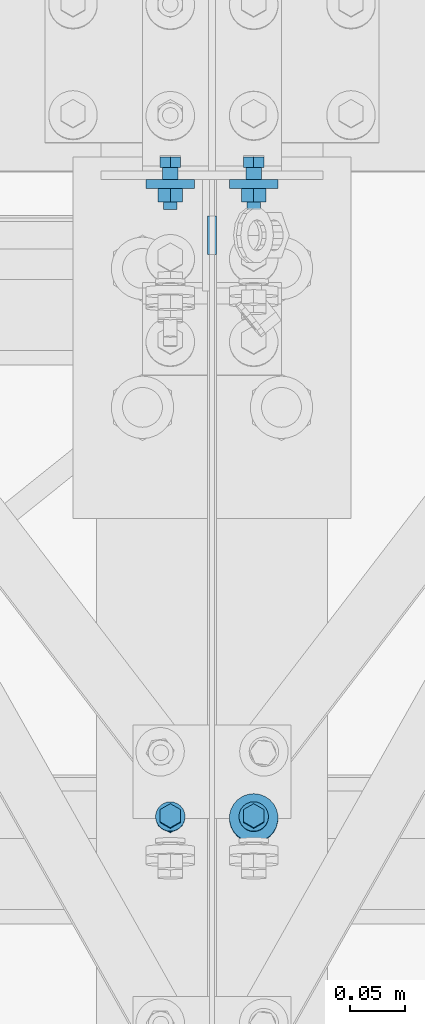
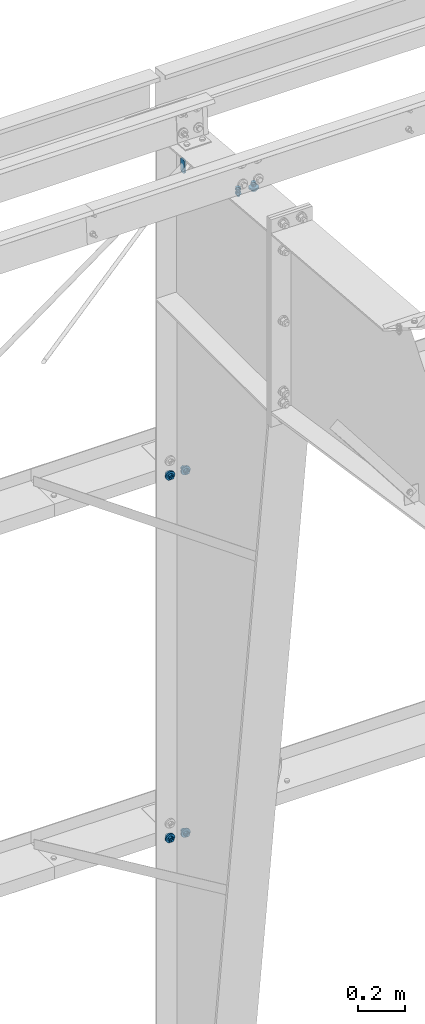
# One storey, part 156 of 185: 7 mechanical fasteners, 4 elements without a shape of their own.
"""IFC2X3 building model written with IfcOpenShell, lengths in millimetres."""

import ifcopenshell
import ifcopenshell.guid

model = None  # the IFC model being written
_history = None  # IfcOwnerHistory: only IFC2X3 demands one
_inside = {}  # id of a spatial element -> (the spatial element, [elements in it])
_under = {}  # id of a project, library or spatial element -> (it, [spatial elements below it])
_declared = {}  # id of a project -> (the project, [libraries it declares])
_typed = {}  # id of a type object -> (the type object, [elements of that type])
_made_of = {}  # id of a material, layer set ... -> (it, [elements and type objects made of it])


def new_model(schema):
    """Start an empty IFC model of exactly this schema.

    Asked for "IFC4X3", IfcOpenShell would pick the latest addendum, in which some entities
    have other attributes; the version numbers below select the first issue.
    IFC2X3 requires an IfcOwnerHistory on every rooted entity: one is made here for all.
    """
    global model, _history
    if schema == "IFC4X3":
        model = ifcopenshell.file(schema_version=(4, 3, 0, 0))
    else:
        model = ifcopenshell.file(schema=schema)
    _inside.clear()
    _under.clear()
    _declared.clear()
    _typed.clear()
    _made_of.clear()
    _history = None
    if model.schema == "IFC2X3":
        org = make("IfcOrganization", Name="unknown")
        user = make(
            "IfcPersonAndOrganization",
            ThePerson=make("IfcPerson", FamilyName="unknown"),
            TheOrganization=org,
        )
        app = make(
            "IfcApplication",
            ApplicationDeveloper=org,
            Version="unknown",
            ApplicationFullName="unknown",
            ApplicationIdentifier="unknown",
        )
        _history = make(
            "IfcOwnerHistory",
            OwningUser=user,
            OwningApplication=app,
            ChangeAction="ADDED",
            CreationDate=0,
        )
    return model


def make(cls, **values):
    """One entity of the class cls with the attributes given. An attribute that is None is left unset."""
    return model.create_entity(
        cls, **{name: value for name, value in values.items() if value is not None}
    )


def rooted(cls, **values):
    """An entity with a GlobalId (a new one), such as an element, a storey or a relation."""
    return make(cls, GlobalId=ifcopenshell.guid.new(), OwnerHistory=_history, **values)


def si_unit(unit_type, name, prefix=None):
    """IfcSIUnit, for example si_unit("LENGTHUNIT", "METRE", prefix="MILLI")."""
    return make("IfcSIUnit", UnitType=unit_type, Prefix=prefix, Name=name)


def assignment(units):
    """IfcUnitAssignment: the units of a project."""
    return None if units is None else make("IfcUnitAssignment", Units=units)


def point(xyz):
    """IfcCartesianPoint."""
    return None if xyz is None else make("IfcCartesianPoint", Coordinates=xyz)


def direction(xyz):
    """IfcDirection."""
    return None if xyz is None else make("IfcDirection", DirectionRatios=xyz)


def frame(location, z_axis=None, x_axis=None):
    """IfcAxis2Placement3D, a coordinate frame: its origin and axes. An axis left out is left unset."""
    return make(
        "IfcAxis2Placement3D",
        Location=point(location),
        Axis=direction(z_axis),
        RefDirection=direction(x_axis),
    )


def frame_2d(location, x_axis=None):
    """IfcAxis2Placement2D, a coordinate frame in the plane: its origin and x axis."""
    return make(
        "IfcAxis2Placement2D", Location=point(location), RefDirection=direction(x_axis)
    )


def origin_with_axes():
    """The frame at (0, 0, 0) with the z axis (0, 0, 1) and the x axis (1, 0, 0) written out."""
    return frame((0.0, 0.0, 0.0), z_axis=(0.0, 0.0, 1.0), x_axis=(1.0, 0.0, 0.0))


def origin_2d_with_axis():
    """The frame at (0, 0) in the plane with the x axis (1, 0) written out."""
    return frame_2d((0.0, 0.0), x_axis=(1.0, 0.0))


def place(relative_to, where):
    """IfcLocalPlacement: puts the frame where relative to a parent placement (None: the world)."""
    return make(
        "IfcLocalPlacement", PlacementRelTo=relative_to, RelativePlacement=where
    )


def context(
    kind, dimensions, precision=None, world=None, true_north=None, identifier=None
):
    """IfcGeometricRepresentationContext, for example the 3D "Model" context."""
    return make(
        "IfcGeometricRepresentationContext",
        ContextIdentifier=identifier,
        ContextType=kind,
        CoordinateSpaceDimension=dimensions,
        Precision=precision,
        WorldCoordinateSystem=world,
        TrueNorth=true_north,
    )


def subcontext(parent, identifier, kind, view, scale=None):
    """IfcGeometricRepresentationSubContext, for example "Body" below "Model"."""
    return make(
        "IfcGeometricRepresentationSubContext",
        ContextIdentifier=identifier,
        ContextType=kind,
        ParentContext=parent,
        TargetScale=scale,
        TargetView=view,
    )


def project(units=None, contexts=None):
    """IfcProject with its units and contexts."""
    return rooted(
        "IfcProject",
        Name="project",
        RepresentationContexts=contexts,
        UnitsInContext=assignment(units),
    )


def spatial(cls, under=None, at=None, **own):
    """A site, building, storey or space (cls), placed at a placement, below another one or the project."""
    s = rooted(cls, ObjectPlacement=at, **own)
    if under is not None:
        _under.setdefault(under.id(), (under, []))[1].append(s)
    return s


def polyline(points):
    """IfcPolyline through the points."""
    return make("IfcPolyline", Points=[point(p) for p in points])


def circle_curve(where, radius):
    """IfcCircle in the frame where."""
    return make("IfcCircle", Position=where, Radius=radius)


def parameter(value):
    """IfcParameterValue: where a trimmed curve begins or ends, as a parameter of its basis curve."""
    return model.create_entity("IfcParameterValue", value)


def trimmed(basis, trim1, trim2, sense, master):
    """IfcTrimmedCurve: the piece of a basis curve between two trims."""
    return make(
        "IfcTrimmedCurve",
        BasisCurve=basis,
        Trim1=trim1,
        Trim2=trim2,
        SenseAgreement=sense,
        MasterRepresentation=master,
    )


def segment(curve, same_sense, transition):
    """IfcCompositeCurveSegment."""
    return make(
        "IfcCompositeCurveSegment",
        Transition=transition,
        SameSense=same_sense,
        ParentCurve=curve,
    )


def composite_curve(segments, self_intersect=None):
    """IfcCompositeCurve: segments joined end to end."""
    return make("IfcCompositeCurve", Segments=segments, SelfIntersect=self_intersect)


def profile(cls, at=None, kind="AREA", **sizes):
    """A parametric profile (cls). Its sizes go by their IFC names, for example OverallWidth=200.0."""
    return make(cls, ProfileType=kind, Position=at, **sizes)


def circle(**sizes):
    """IfcCircleProfileDef."""
    return profile("IfcCircleProfileDef", **sizes)


def outline(outer, holes=None, kind="AREA"):
    """IfcArbitraryClosedProfileDef: a profile drawn as a closed curve; with holes, ...WithVoids."""
    if holes is None:
        return make("IfcArbitraryClosedProfileDef", ProfileType=kind, OuterCurve=outer)
    return make(
        "IfcArbitraryProfileDefWithVoids",
        ProfileType=kind,
        OuterCurve=outer,
        InnerCurves=holes,
    )


def extrude(swept, where, along, depth):
    """IfcExtrudedAreaSolid: the profile swept, set in the frame where, extruded along a direction by depth."""
    return make(
        "IfcExtrudedAreaSolid",
        SweptArea=swept,
        Position=where,
        ExtrudedDirection=direction(along),
        Depth=depth,
    )


def shape(context_of_items, identifier, shape_type, items):
    """IfcShapeRepresentation: the items that make up one representation, for example the "Body"."""
    return make(
        "IfcShapeRepresentation",
        ContextOfItems=context_of_items,
        RepresentationIdentifier=identifier,
        RepresentationType=shape_type,
        Items=items,
    )


def source(mapping_origin, context_of_items, identifier, shape_type, items):
    """IfcRepresentationMap: a shape defined once, which mapped items show again and again."""
    return make(
        "IfcRepresentationMap",
        MappingOrigin=mapping_origin,
        MappedRepresentation=shape(context_of_items, identifier, shape_type, items),
    )


def transform(
    local_origin,
    x_axis=None,
    y_axis=None,
    z_axis=None,
    scale=None,
    scale2=None,
    scale3=None,
    uniform=True,
):
    """IfcCartesianTransformationOperator3D, or its non-uniform kind. x_axis, y_axis, z_axis: its Axis1, 2, 3."""
    if uniform:
        return make(
            "IfcCartesianTransformationOperator3D",
            Axis1=direction(x_axis),
            Axis2=direction(y_axis),
            LocalOrigin=point(local_origin),
            Scale=scale,
            Axis3=direction(z_axis),
        )
    return make(
        "IfcCartesianTransformationOperator3DnonUniform",
        Axis1=direction(x_axis),
        Axis2=direction(y_axis),
        LocalOrigin=point(local_origin),
        Scale=scale,
        Axis3=direction(z_axis),
        Scale2=scale2,
        Scale3=scale3,
    )


def mapped(mapping_source, mapping_target):
    """IfcMappedItem: shows the shape of a source again, moved by a transform."""
    return make(
        "IfcMappedItem", MappingSource=mapping_source, MappingTarget=mapping_target
    )


def material(Name=None, Category=None):
    """IfcMaterial."""
    return make("IfcMaterial", Name=Name, Category=Category)


def made_of(thing, what):
    """Note that an element or type object is made of a material, layer set ...; save() writes the relation."""
    if what is not None:
        _made_of.setdefault(what.id(), (what, []))[1].append(thing)
    return thing


def type_object(cls, material=None, **own):
    """A type object (cls), such as IfcWallType, which elements share."""
    return made_of(rooted(cls, **own), material)


def element(
    cls,
    number,
    at=None,
    inside=None,
    cuts=None,
    type_object=None,
    material=None,
    context=None,
    identifier="Body",
    shape_type=None,
    held_by="IfcProductDefinitionShape",
    body=None,
    shapes=None,
    **own,
):
    """One element of the class cls, such as IfcWall. Its Tag is "e" and its number.

    at: its placement. inside: the storey or other place that contains it. cuts: it is an
    opening in that element (IfcRelVoidsElement). A single representation is given by context,
    identifier, shape_type and body (its items); several are given by shapes. held_by: the class
    of the entity that holds the representations. save() writes the other relations.
    """
    e = rooted(cls, Tag="e%d" % number, ObjectPlacement=at, **own)
    if body is not None:
        shapes = [shape(context, identifier, shape_type, body)]
    if shapes is not None:
        e.Representation = make(held_by, Representations=shapes)
    if inside is not None:
        _inside.setdefault(inside.id(), (inside, []))[1].append(e)
    if cuts is not None:
        rooted(
            "IfcRelVoidsElement", RelatingBuildingElement=cuts, RelatedOpeningElement=e
        )
    if type_object is not None:
        _typed.setdefault(type_object.id(), (type_object, []))[1].append(e)
    return made_of(e, material)


def aggregate(whole, parts):
    """IfcRelAggregates: a whole, such as a stair, and the parts it consists of."""
    return rooted("IfcRelAggregates", RelatingObject=whole, RelatedObjects=parts)


def save(model, path):
    """Write the relations noted so far, then the file.

    IfcRelAggregates (storeys below a building ...), IfcRelContainedInSpatialStructure (elements
    in a storey), IfcRelDefinesByType, IfcRelAssociatesMaterial and IfcRelDeclares: one each for
    every whole, place, type object, material and project.
    """
    for whole, parts in _under.values():
        aggregate(whole, parts)
    for where, things in _inside.values():
        rooted(
            "IfcRelContainedInSpatialStructure",
            RelatedElements=things,
            RelatingStructure=where,
        )
    for kind, things in _typed.values():
        rooted("IfcRelDefinesByType", RelatedObjects=things, RelatingType=kind)
    for what, things in _made_of.values():
        rooted("IfcRelAssociatesMaterial", RelatedObjects=things, RelatingMaterial=what)
    for by, libraries in _declared.values():
        rooted("IfcRelDeclares", RelatingContext=by, RelatedDefinitions=libraries)
    model.write(path)


model = new_model("IFC2X3")

# Units and contexts
model_context = context("Model", 3, precision=1e-05, world=origin_with_axes())
body_context = subcontext(model_context, "Body", "Model", "MODEL_VIEW")
ifc_project = project(units=[si_unit("LENGTHUNIT", "METRE", prefix="MILLI"), si_unit("AREAUNIT", "SQUARE_METRE"), si_unit("VOLUMEUNIT", "CUBIC_METRE"), si_unit("MASSUNIT", "GRAM", prefix="KILO"), si_unit("TIMEUNIT", "SECOND"), si_unit("PLANEANGLEUNIT", "RADIAN"), si_unit("SOLIDANGLEUNIT", "STERADIAN"), si_unit("THERMODYNAMICTEMPERATUREUNIT", "DEGREE_CELSIUS"), si_unit("LUMINOUSINTENSITYUNIT", "LUMEN")], contexts=[model_context])

# Site, building, storey
site_placement = place(None, origin_with_axes())
site = spatial("IfcSite", under=ifc_project, at=site_placement, Name="Undefined", CompositionType="ELEMENT")
building_placement = place(site_placement, origin_with_axes())
building = spatial("IfcBuilding", under=site, at=building_placement, Name="Undefined", CompositionType="ELEMENT")
storey_placement = place(building_placement, origin_with_axes())
storey = spatial("IfcBuildingStorey", under=building, at=storey_placement, Name="Undefined", CompositionType="ELEMENT", Elevation=0.0)

# Assembly, mechanical fasteners
assembly_1_placement = place(storey_placement, origin_with_axes())
assembly_1 = element("IfcElementAssembly", 1, at=assembly_1_placement, inside=storey, Name="Steel Assembly", AssemblyPlace="NOTDEFINED", PredefinedType="RIGID_FRAME")
ifc_material = material(Name="Undefined")
discrete_accessory_type = type_object("IfcDiscreteAccessoryType", Name="Bolt assembly")
shared_shape_1 = source(origin_with_axes(), body_context, "Body", "SweptSolid", [
    extrude(circle(Radius=7.14374971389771, at=origin_2d_with_axis()), frame((0.0, -3.08000006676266, 0.0), z_axis=(0.0, 1.0, 0.0), x_axis=(1.0, 0.0, 0.0)), (0.0, 0.0, 1.0), 3.2),
    extrude(circle(Radius=7.14374971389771, at=origin_2d_with_axis()), frame((0.0, -3.08000006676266, 0.0), z_axis=(0.0, 1.0, 0.0), x_axis=(1.0, 0.0, 0.0)), (0.0, 0.0, 1.0), 3.2),
    extrude(circle(Radius=7.14374971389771, at=origin_2d_with_axis()), frame((0.0, -0.1, 0.0), z_axis=(0.0, 1.0, 0.0), x_axis=(1.0, 0.0, 0.0)), (0.0, 0.0, 1.0), 8.0),
    extrude(outline(polyline([(10.9985221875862, 0.0), (5.4992610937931, 9.52499961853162), (-5.4992610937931, 9.52499961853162), (-10.9985221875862, 0.0), (-5.4992610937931, -9.52499961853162), (5.4992610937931, -9.52499961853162), (10.9985221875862, 0.0)])), frame((0.0, -12.7050014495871, 0.0), z_axis=(0.0, 1.0, 0.0), x_axis=(1.0, 0.0, 0.0)), (0.0, 0.0, 1.0), 9.5),
    extrude(circle(Radius=6.34999990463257, at=origin_2d_with_axis()), frame((0.0, -3.18000030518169, 0.0), z_axis=(0.0, 1.0, 0.0), x_axis=(1.0, 0.0, 0.0)), (0.0, 0.0, 1.0), 38.1),
    extrude(circle(Radius=22.2250003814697, at=origin_2d_with_axis()), frame((0.0, 7.87399999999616, 0.0), z_axis=(0.0, 1.0, 0.0), x_axis=(1.0, 0.0, 0.0)), (0.0, 0.0, 1.0), 7.9),
    extrude(outline(polyline([(12.8316099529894, 0.0), (6.4158049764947, 11.1125001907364), (-6.4158049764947, 11.1125001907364), (-12.8316099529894, 0.0), (-6.4158049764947, -11.1125001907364), (6.4158049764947, -11.1125001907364), (12.8316099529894, 0.0)])), frame((0.0, 15.8114999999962, 0.0), z_axis=(0.0, 1.0, 0.0), x_axis=(1.0, 0.0, 0.0)), (0.0, 0.0, 1.0), 12.3),
])
mechanical_fastener_1_placement = place(assembly_1_placement, frame((14820.9, 31800.8, 4127.5), z_axis=(-1.0, 0.0, 0.0), x_axis=(0.0, 0.0, -1.0)))
mechanical_fastener_1 = element("IfcMechanicalFastener", 2, at=mechanical_fastener_1_placement, type_object=discrete_accessory_type, material=ifc_material, Name="Bolt assembly", NominalDiameter=12.6999998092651, NominalLength=38.0999984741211, context=body_context, shape_type="MappedRepresentation", body=[
    mapped(shared_shape_1, transform((0.0, 0.0, 0.0))),
])
mechanical_fastener_2_placement = place(assembly_1_placement, frame((14897.1, 31800.8, 4127.5), z_axis=(-1.0, 0.0, 0.0), x_axis=(0.0, 0.0, -1.0)))
mechanical_fastener_2 = element("IfcMechanicalFastener", 3, at=mechanical_fastener_2_placement, type_object=discrete_accessory_type, material=ifc_material, Name="Bolt assembly", NominalDiameter=12.6999998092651, NominalLength=38.0999984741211, context=body_context, shape_type="MappedRepresentation", body=[
    mapped(shared_shape_1, transform((0.0, 0.0, 0.0))),
])
aggregate(assembly_1, [mechanical_fastener_1, mechanical_fastener_2])

assembly_2_placement = place(storey_placement, origin_with_axes())
assembly_2 = element("IfcElementAssembly", 4, at=assembly_2_placement, inside=storey, Name="Steel Assembly", AssemblyPlace="NOTDEFINED", PredefinedType="RIGID_FRAME")
mechanical_fastener_3_placement = place(assembly_2_placement, frame((14820.9, 31800.8, 2247.9), z_axis=(-1.0, 0.0, 0.0), x_axis=(0.0, 0.0, -1.0)))
mechanical_fastener_3 = element("IfcMechanicalFastener", 5, at=mechanical_fastener_3_placement, type_object=discrete_accessory_type, material=ifc_material, Name="Bolt assembly", NominalDiameter=12.6999998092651, NominalLength=38.0999984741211, context=body_context, shape_type="MappedRepresentation", body=[
    mapped(shared_shape_1, transform((0.0, 0.0, 0.0))),
])
mechanical_fastener_4_placement = place(assembly_2_placement, frame((14897.1, 31800.8, 2247.9), z_axis=(-1.0, 0.0, 0.0), x_axis=(0.0, 0.0, -1.0)))
mechanical_fastener_4 = element("IfcMechanicalFastener", 6, at=mechanical_fastener_4_placement, type_object=discrete_accessory_type, material=ifc_material, Name="Bolt assembly", NominalDiameter=12.6999998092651, NominalLength=38.0999984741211, context=body_context, shape_type="MappedRepresentation", body=[
    mapped(shared_shape_1, transform((0.0, 0.0, 0.0))),
])
aggregate(assembly_2, [mechanical_fastener_3, mechanical_fastener_4])

# Assembly, mechanical fastener
assembly_3_placement = place(storey_placement, origin_with_axes())
assembly_3 = element("IfcElementAssembly", 7, at=assembly_3_placement, inside=storey, Name="Steel Assembly", AssemblyPlace="NOTDEFINED", PredefinedType="RIGID_FRAME")
shared_shape_2 = source(origin_with_axes(), body_context, "Body", "SweptSolid", [
    extrude(outline(composite_curve([segment(polyline([(-23.8125, 17.4624996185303), (23.8125, 17.4624996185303)]), True, "CONTINUOUS"), segment(trimmed(circle_curve(frame_2d((23.8125, 4.76249980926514), x_axis=(0.0, 1.0)), 12.7), [parameter(0.0)], [parameter(4.71238898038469)], False, "PARAMETER"), True, "CONTINUOUS"), segment(polyline([(36.5124998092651, 4.76249980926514), (36.5124998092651, -4.76249980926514)]), True, "CONTINUOUS"), segment(trimmed(circle_curve(frame_2d((23.8125, -4.76249980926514), x_axis=(1.0, 0.0)), 12.7), [parameter(0.0)], [parameter(4.71238898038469)], False, "PARAMETER"), True, "CONTINUOUS"), segment(polyline([(23.8125, -17.4624996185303), (-23.8125, -17.4624996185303)]), True, "CONTINUOUS"), segment(trimmed(circle_curve(frame_2d((-23.8125, -4.76249980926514), x_axis=(0.0, -1.0)), 12.7), [parameter(0.0)], [parameter(4.71238898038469)], False, "PARAMETER"), True, "CONTINUOUS"), segment(polyline([(-36.5124998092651, -4.76249980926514), (-36.5124998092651, 4.76249980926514)]), True, "CONTINUOUS"), segment(trimmed(circle_curve(frame_2d((-23.8125, 4.76249980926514), x_axis=(-1.0, 0.0)), 12.7), [parameter(0.0)], [parameter(4.71238898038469)], False, "PARAMETER"), True, "DISCONTINUOUS")], self_intersect=False)), frame((0.0, -3.96874999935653, 0.0), z_axis=(0.0, 1.0, 0.0), x_axis=(1.0, 0.0, 0.0)), (0.0, 0.0, 1.0), 8.0),
])
mechanical_fastener_5_placement = place(assembly_3_placement, frame((14859.0, 31742.1260000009, 5749.33676037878), z_axis=(0.0, 1.0, 0.0), x_axis=(0.0, 0.0, -1.0)))
mechanical_fastener_5 = element("IfcMechanicalFastener", 8, at=mechanical_fastener_5_placement, type_object=discrete_accessory_type, material=ifc_material, Name="Bolt assembly", NominalDiameter=25.3999996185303, NominalLength=31.75, context=body_context, shape_type="MappedRepresentation", body=[
    mapped(shared_shape_2, transform((0.0, 0.0, 0.0))),
])
aggregate(assembly_3, [mechanical_fastener_5])

# Assembly, mechanical fasteners
assembly_4_placement = place(storey_placement, origin_with_axes())
assembly_4 = element("IfcElementAssembly", 9, at=assembly_4_placement, inside=storey, Name="Steel Assembly", AssemblyPlace="NOTDEFINED", PredefinedType="RIGID_FRAME")
shared_shape_3 = source(origin_with_axes(), body_context, "Body", "SweptSolid", [
    extrude(circle(Radius=7.14374971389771, at=origin_2d_with_axis()), frame((0.0, -0.1, 0.0), z_axis=(0.0, 1.0, 0.0), x_axis=(1.0, 0.0, 0.0)), (0.0, 0.0, 1.0), 8.1),
    extrude(circle(Radius=7.14374971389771, at=origin_2d_with_axis()), frame((0.0, -3.08000006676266, 0.0), z_axis=(0.0, 1.0, 0.0), x_axis=(1.0, 0.0, 0.0)), (0.0, 0.0, 1.0), 3.2),
    extrude(circle(Radius=7.14374971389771, at=origin_2d_with_axis()), frame((0.0, -3.08000006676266, 0.0), z_axis=(0.0, 1.0, 0.0), x_axis=(1.0, 0.0, 0.0)), (0.0, 0.0, 1.0), 3.2),
    extrude(outline(polyline([(10.9985221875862, 0.0), (5.4992610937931, 9.52499961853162), (-5.4992610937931, 9.52499961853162), (-10.9985221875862, 0.0), (-5.4992610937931, -9.52499961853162), (5.4992610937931, -9.52499961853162), (10.9985221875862, 0.0)])), frame((0.0, -16.6737496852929, 0.0), z_axis=(0.0, 1.0, 0.0), x_axis=(1.0, 0.0, 0.0)), (0.0, 0.0, 1.0), 9.5),
    extrude(circle(Radius=6.34999990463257, at=origin_2d_with_axis()), frame((0.0, -7.14875006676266, 0.0), z_axis=(0.0, 1.0, 0.0), x_axis=(1.0, 0.0, 0.0)), (0.0, 0.0, 1.0), 38.1),
    extrude(circle(Radius=13.4937496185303, at=origin_2d_with_axis()), frame((0.0, -7.14875006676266, 0.0), z_axis=(0.0, 1.0, 0.0), x_axis=(1.0, 0.0, 0.0)), (0.0, 0.0, 1.0), 4.0),
    extrude(circle(Radius=22.2250003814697, at=origin_2d_with_axis()), frame((0.0, 7.95019856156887, 0.0), z_axis=(0.0, 1.0, 0.0), x_axis=(1.0, 0.0, 0.0)), (0.0, 0.0, 1.0), 7.9),
    extrude(outline(polyline([(12.8316099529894, 0.0), (6.4158049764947, 11.1125001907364), (-6.4158049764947, 11.1125001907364), (-12.8316099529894, 0.0), (-6.4158049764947, -11.1125001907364), (6.4158049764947, -11.1125001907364), (12.8316099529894, 0.0)])), frame((0.0, 15.8876985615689, 0.0), z_axis=(0.0, 1.0, 0.0), x_axis=(1.0, 0.0, 0.0)), (0.0, 0.0, 1.0), 12.3),
])
mechanical_fastener_6_placement = place(assembly_4_placement, frame((14897.1, 31210.4504829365, 5958.22479169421), z_axis=(-1.0, 0.0, 0.0), x_axis=(0.0, 0.996545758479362, -0.0830454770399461)))
mechanical_fastener_6 = element("IfcMechanicalFastener", 10, at=mechanical_fastener_6_placement, type_object=discrete_accessory_type, material=ifc_material, Name="Bolt assembly", NominalDiameter=12.6999998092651, NominalLength=38.0999984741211, context=body_context, shape_type="MappedRepresentation", body=[
    mapped(shared_shape_3, transform((0.0, 0.0, 0.0))),
])
shared_shape_4 = source(origin_with_axes(), body_context, "Body", "SweptSolid", [
    extrude(circle(Radius=7.14374971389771, at=origin_2d_with_axis()), frame((0.0, -0.1, 0.0), z_axis=(0.0, 1.0, 0.0), x_axis=(1.0, 0.0, 0.0)), (0.0, 0.0, 1.0), 8.1),
    extrude(circle(Radius=7.14374971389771, at=origin_2d_with_axis()), frame((0.0, -3.08000006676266, 0.0), z_axis=(0.0, 1.0, 0.0), x_axis=(1.0, 0.0, 0.0)), (0.0, 0.0, 1.0), 3.2),
    extrude(circle(Radius=7.14374971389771, at=origin_2d_with_axis()), frame((0.0, -3.08000006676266, 0.0), z_axis=(0.0, 1.0, 0.0), x_axis=(1.0, 0.0, 0.0)), (0.0, 0.0, 1.0), 3.2),
    extrude(outline(polyline([(10.9985221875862, 0.0), (5.4992610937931, 9.52499961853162), (-5.4992610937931, 9.52499961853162), (-10.9985221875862, 0.0), (-5.4992610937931, -9.52499961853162), (5.4992610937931, -9.52499961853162), (10.9985221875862, 0.0)])), frame((0.0, -16.6737496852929, 0.0), z_axis=(0.0, 1.0, 0.0), x_axis=(1.0, 0.0, 0.0)), (0.0, 0.0, 1.0), 9.5),
    extrude(circle(Radius=6.34999990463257, at=origin_2d_with_axis()), frame((0.0, -7.14875006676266, 0.0), z_axis=(0.0, 1.0, 0.0), x_axis=(1.0, 0.0, 0.0)), (0.0, 0.0, 1.0), 38.1),
    extrude(circle(Radius=13.4937496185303, at=origin_2d_with_axis()), frame((0.0, -7.14875006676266, 0.0), z_axis=(0.0, 1.0, 0.0), x_axis=(1.0, 0.0, 0.0)), (0.0, 0.0, 1.0), 4.0),
    extrude(outline(polyline([(12.8316099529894, 0.0), (6.4158049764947, 11.1125001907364), (-6.4158049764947, 11.1125001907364), (-12.8316099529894, 0.0), (-6.4158049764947, -11.1125001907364), (6.4158049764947, -11.1125001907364), (12.8316099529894, 0.0)])), frame((0.0, 7.95019856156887, 0.0), z_axis=(0.0, 1.0, 0.0), x_axis=(1.0, 0.0, 0.0)), (0.0, 0.0, 1.0), 12.3),
])
mechanical_fastener_7_placement = place(assembly_4_placement, frame((14820.9, 31210.4504829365, 5958.22479169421), z_axis=(-1.0, 0.0, 0.0), x_axis=(0.0, 0.996545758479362, -0.0830454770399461)))
mechanical_fastener_7 = element("IfcMechanicalFastener", 11, at=mechanical_fastener_7_placement, type_object=discrete_accessory_type, material=ifc_material, Name="Bolt assembly", NominalDiameter=12.6999998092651, NominalLength=38.0999984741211, context=body_context, shape_type="MappedRepresentation", body=[
    mapped(shared_shape_4, transform((0.0, 0.0, 0.0))),
])
aggregate(assembly_4, [mechanical_fastener_6, mechanical_fastener_7])

save(model, "model.ifc")
